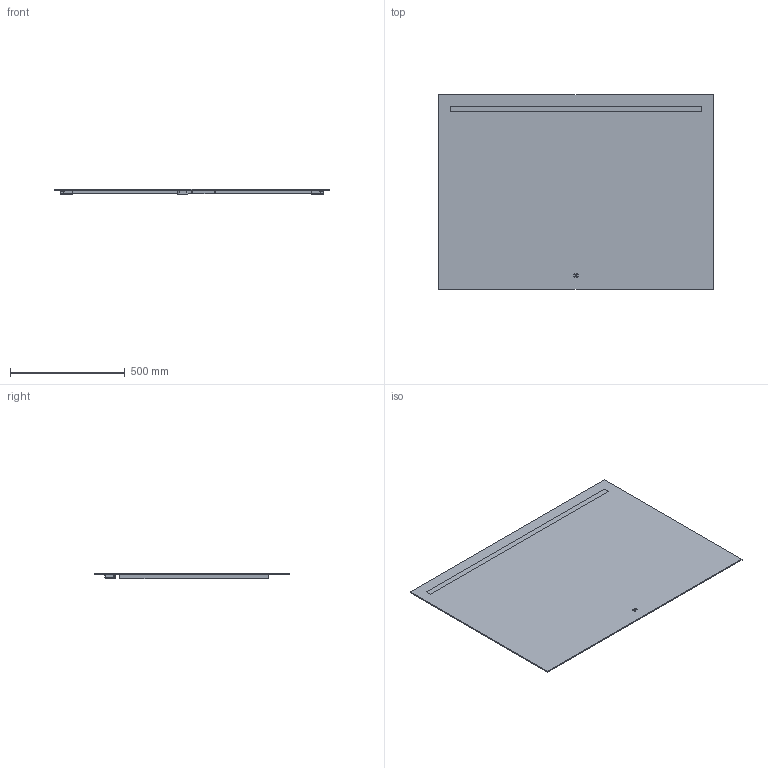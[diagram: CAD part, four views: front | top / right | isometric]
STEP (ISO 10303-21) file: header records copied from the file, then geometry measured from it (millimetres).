
FILE_DESCRIPTION (( 'STEP AP203' ), '1' );
FILE_NAME ('2000660 Kristalspiegel Mono 1200x850 horizontal.STEP', '2021-01-22T09:21:59', ( '' ), ( '' ), 'SwSTEP 2.0', 'SolidWorks 2018', '' );
FILE_SCHEMA (( 'CONFIG_CONTROL_DESIGN' ));
Length unit declared in the file: millimetre
Products named in the file (7): Trafo_15W; Rechteckprofil; Neues_Kunststoffprofil; IP44-Box; Spiegel_horizontale_Beleuchtung; Endkappe_mit_Kabelauslass; 2000660 Kristalspiegel Mono 1200x850 horizontal
Assembly tree (8 placements, depth 2):
  2000660 Kristalspiegel Mono 1200x850 horizontal
    Spiegel_horizontale_Beleuchtung
    Neues_Kunststoffprofil
    Endkappe_mit_Kabelauslass  x2
    Rechteckprofil  x2
    IP44-Box
    Trafo_15W
Bounding box: 1200 x 850 x 25 mm (x, y, z)
Volume: 5810893.2 mm3; surface area: 2636484.3 mm2
Topology: 8 solids, 8 shells, 312 faces, 824 edges, 520 vertices
Faces by surface type: plane 146, cylinder 120, torus 24, bspline 20, sphere 2
Entity records: 7101 total; most frequent: CARTESIAN_POINT 1438, DIRECTION 1031, ORIENTED_EDGE 1028, EDGE_CURVE 514, AXIS2_PLACEMENT_3D 355, VERTEX_POINT 342, VECTOR 321, LINE 321
